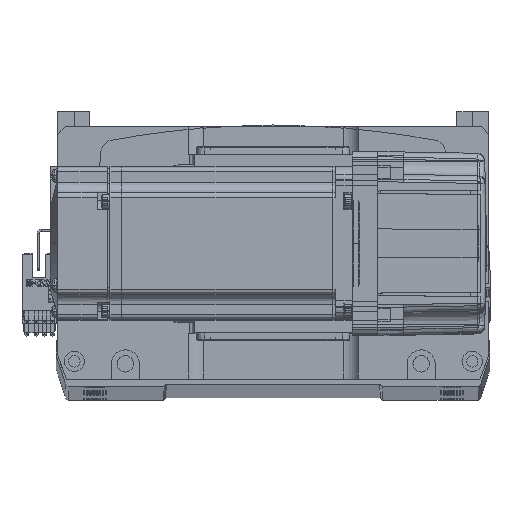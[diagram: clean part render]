
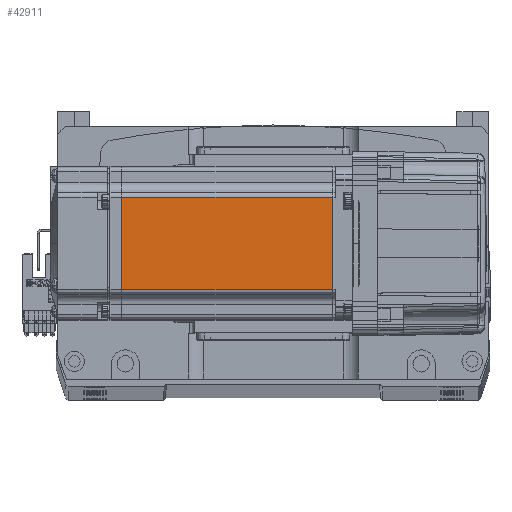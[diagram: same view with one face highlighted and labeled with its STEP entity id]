
A CAD part, top view. The second image highlights one B-rep face of the part: STEP entity #42911.
In plain terms, the highlighted planar face has unit normal (0, 0, 1).
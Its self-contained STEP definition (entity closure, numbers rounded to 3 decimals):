
#2131 = AXIS2_PLACEMENT_3D ( 'NONE', #14243, #25246, #2971 ) ;
#2717 = LINE ( 'NONE', #12314, #7887 ) ;
#2971 = DIRECTION ( 'NONE',  ( 1., 0., 0. ) ) ;
#6408 = VERTEX_POINT ( 'NONE', #51158 ) ;
#6814 = VERTEX_POINT ( 'NONE', #27503 ) ;
#7259 = VERTEX_POINT ( 'NONE', #28332 ) ;
#7810 = EDGE_CURVE ( 'NONE', #17443, #6814, #2717, .T. ) ;
#7887 = VECTOR ( 'NONE', #34081, 1000. ) ;
#12314 = CARTESIAN_POINT ( 'NONE',  ( -6.5, 18., 30. ) ) ;
#14243 = CARTESIAN_POINT ( 'NONE',  ( -6.5, -25., 30. ) ) ;
#15988 = VECTOR ( 'NONE', #21533, 1000. ) ;
#17443 = VERTEX_POINT ( 'NONE', #30219 ) ;
#21533 = DIRECTION ( 'NONE',  ( -1., 0., 0. ) ) ;
#22111 = LINE ( 'NONE', #37578, #60634 ) ;
#24230 = CARTESIAN_POINT ( 'NONE',  ( -90.45, 0., 30. ) ) ;
#25246 = DIRECTION ( 'NONE',  ( 0., 0., 1. ) ) ;
#27503 = CARTESIAN_POINT ( 'NONE',  ( -90.45, 18., 30. ) ) ;
#28332 = CARTESIAN_POINT ( 'NONE',  ( -90.45, -18., 30. ) ) ;
#30219 = CARTESIAN_POINT ( 'NONE',  ( -7.75, 18., 30. ) ) ;
#30249 = PLANE ( 'NONE',  #2131 ) ;
#31818 = CARTESIAN_POINT ( 'NONE',  ( -6.5, -18., 30. ) ) ;
#33916 = EDGE_CURVE ( 'NONE', #17443, #6408, #22111, .T. ) ;
#34081 = DIRECTION ( 'NONE',  ( -1., 0., 0. ) ) ;
#35702 = DIRECTION ( 'NONE',  ( 0., -1., 0. ) ) ;
#36082 = LINE ( 'NONE', #24230, #66000 ) ;
#37198 = EDGE_LOOP ( 'NONE', ( #55586, #54757, #60554, #69642 ) ) ;
#37578 = CARTESIAN_POINT ( 'NONE',  ( -7.75, 0., 30. ) ) ;
#42911 = ADVANCED_FACE ( 'NONE', ( #44717 ), #30249, .T. ) ;
#44717 = FACE_OUTER_BOUND ( 'NONE', #37198, .T. ) ;
#48991 = EDGE_CURVE ( 'NONE', #6408, #7259, #65580, .T. ) ;
#51158 = CARTESIAN_POINT ( 'NONE',  ( -7.75, -18., 30. ) ) ;
#54757 = ORIENTED_EDGE ( 'NONE', *, *, #7810, .T. ) ;
#55586 = ORIENTED_EDGE ( 'NONE', *, *, #33916, .F. ) ;
#60554 = ORIENTED_EDGE ( 'NONE', *, *, #65484, .T. ) ;
#60634 = VECTOR ( 'NONE', #70330, 1000. ) ;
#65484 = EDGE_CURVE ( 'NONE', #6814, #7259, #36082, .T. ) ;
#65580 = LINE ( 'NONE', #31818, #15988 ) ;
#66000 = VECTOR ( 'NONE', #35702, 1000. ) ;
#69642 = ORIENTED_EDGE ( 'NONE', *, *, #48991, .F. ) ;
#70330 = DIRECTION ( 'NONE',  ( 0., -1., 0. ) ) ;
